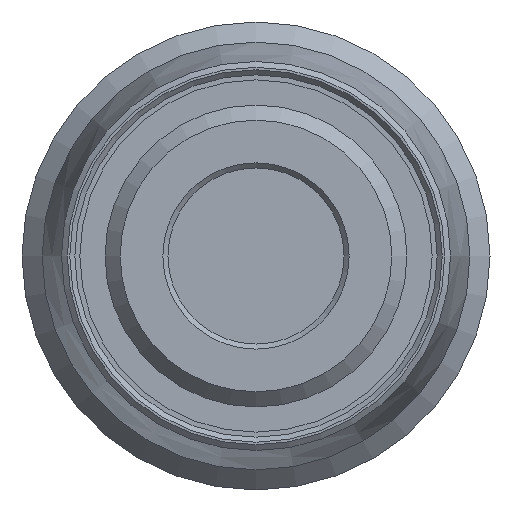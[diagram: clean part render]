
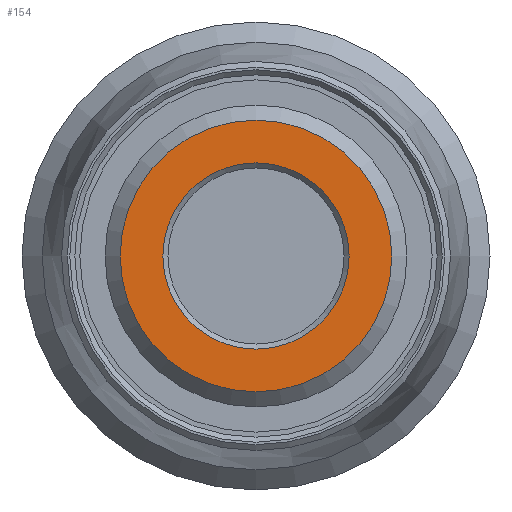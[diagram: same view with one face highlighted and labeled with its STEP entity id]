
A CAD part, left-side view. The second image highlights one B-rep face of the part: STEP entity #154.
In plain terms, the highlighted planar face has unit normal (-1, 0, 0).
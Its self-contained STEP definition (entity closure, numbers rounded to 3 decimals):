
#123=CARTESIAN_POINT('',(-20.6,1.85,0.));
#124=VERTEX_POINT('',#123);
#125=CARTESIAN_POINT('',(-20.6,0.0,0.0));
#126=DIRECTION('',(-1.0,0.0,0.0));
#127=DIRECTION('',(0.0,-1.0,0.0));
#128=AXIS2_PLACEMENT_3D('',#125,#126,#127);
#129=CIRCLE('',#128,1.85);
#130=EDGE_CURVE('',#124,#124,#129,.T.);
#135=CARTESIAN_POINT('',(-20.6,2.375,0.0));
#136=DIRECTION('',(-1.0,0.0,0.0));
#137=DIRECTION('',(0.0,0.0,1.0));
#138=AXIS2_PLACEMENT_3D('',#135,#136,#137);
#139=PLANE('',#138);
#140=CARTESIAN_POINT('',(-20.6,2.7,0.));
#141=VERTEX_POINT('',#140);
#142=CARTESIAN_POINT('',(-20.6,0.0,0.0));
#143=DIRECTION('',(1.0,0.0,0.0));
#144=DIRECTION('',(0.0,-1.0,0.0));
#145=AXIS2_PLACEMENT_3D('',#142,#143,#144);
#146=CIRCLE('',#145,2.7);
#147=EDGE_CURVE('',#141,#141,#146,.T.);
#148=ORIENTED_EDGE('',*,*,#147,.F.);
#149=EDGE_LOOP('',(#148));
#150=FACE_OUTER_BOUND('',#149,.T.);
#151=ORIENTED_EDGE('',*,*,#130,.F.);
#152=EDGE_LOOP('',(#151));
#153=FACE_BOUND('',#152,.T.);
#154=ADVANCED_FACE('',(#150,#153),#139,.T.);
